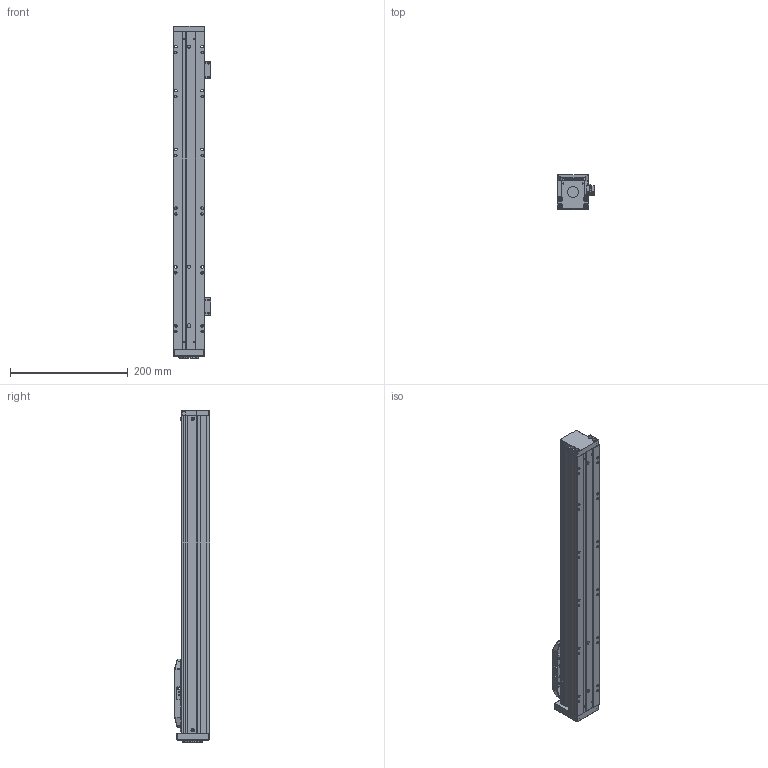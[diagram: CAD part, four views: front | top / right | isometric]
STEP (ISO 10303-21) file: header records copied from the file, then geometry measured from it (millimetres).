
FILE_DESCRIPTION (( 'STEP AP203' ), '1' );
FILE_NAME ('KTH5-L10-S400.STEP', '2019-12-19T08:22:15', ( '微软用户' ), ( '微软中国' ), 'SwSTEP 2.0', 'SolidWorks 2017', '' );
FILE_SCHEMA (( 'CONFIG_CONTROL_DESIGN' ));
Length unit declared in the file: millimetre
Products named in the file (16): LES50-004賑釱; 粣創釱-郔笝唳20190813; ヶ裔-党蜊唳; 耜啣; 嫖萇羲壽諉揖え; 階裔; EE-SX674; 棠沭; EE-SX674WR嫖萇羲壽假蚾啣; KTH5-L10-S400; LES50-013癹弇菜; 詩湍; 詩湍揤啣; GB╱T 70.1-2008[内六角圆柱头螺钉M4×16]_M4×16; LES50-001菁釱; GB╱T 70.2-2008[内六角平圆头螺钉M3×10]_M3×10
Assembly tree (31 placements, depth 2):
  KTH5-L10-S400
    LES50-001菁釱
    LES50-004賑釱
    耜啣  x2
    階裔
    棠沭  x2
    LES50-013癹弇菜  x2
    詩湍
    詩湍揤啣  x2
    GB╱T 70.1-2008[内六角圆柱头螺钉M4×16]_M4×16  x4
    GB╱T 70.2-2008[内六角平圆头螺钉M3×10]_M3×10  x8
    ヶ裔-党蜊唳
    粣創釱-郔笝唳20190813
    嫖萇羲壽諉揖え
    EE-SX674  x2
    EE-SX674WR嫖萇羲壽假蚾啣  x2
Bounding box: 64.25 x 60 x 565 mm (x, y, z)
Volume: 563065.4 mm3; surface area: 307418.4 mm2
Topology: 31 solids, 31 shells, 1393 faces, 3372 edges, 2066 vertices
Faces by surface type: plane 654, cylinder 447, cone 228, torus 36, sphere 16, bspline 12
Entity records: 32010 total; most frequent: CARTESIAN_POINT 5693, DIRECTION 5204, ORIENTED_EDGE 4820, EDGE_CURVE 2410, AXIS2_PLACEMENT_3D 1832, LINE 1540, VECTOR 1540, VERTEX_POINT 1531
